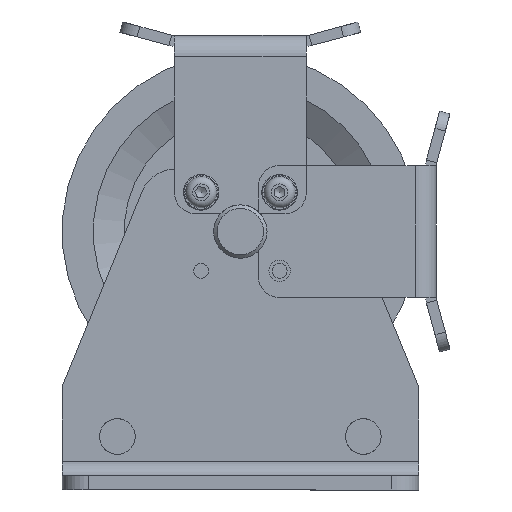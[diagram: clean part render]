
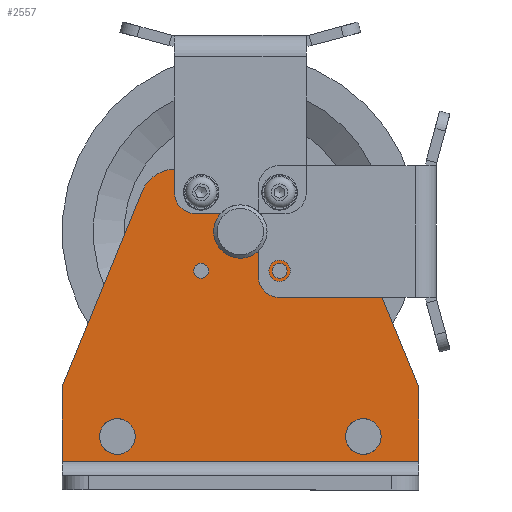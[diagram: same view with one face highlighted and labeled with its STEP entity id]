
A CAD part, front view. The second image highlights one B-rep face of the part: STEP entity #2557.
In plain terms, the highlighted planar face has unit normal (0, -1, 0) as drawn and (0, 0, 1) by its records, which use the part's own axes.
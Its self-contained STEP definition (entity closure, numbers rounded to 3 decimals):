
#167=FACE_BOUND('',#464,.T.);
#168=FACE_BOUND('',#465,.T.);
#169=FACE_BOUND('',#466,.T.);
#170=FACE_BOUND('',#467,.T.);
#171=FACE_BOUND('',#468,.T.);
#172=FACE_BOUND('',#469,.T.);
#173=FACE_BOUND('',#470,.T.);
#207=PLANE('',#2944);
#303=FACE_OUTER_BOUND('',#463,.T.);
#463=EDGE_LOOP('',(#1892,#1893,#1894,#1895,#1896,#1897,#1898,#1899));
#464=EDGE_LOOP('',(#1900,#1901));
#465=EDGE_LOOP('',(#1902,#1903));
#466=EDGE_LOOP('',(#1904,#1905));
#467=EDGE_LOOP('',(#1906,#1907));
#468=EDGE_LOOP('',(#1908));
#469=EDGE_LOOP('',(#1909));
#470=EDGE_LOOP('',(#1910));
#634=LINE('',#4224,#819);
#637=LINE('',#4230,#822);
#645=LINE('',#4264,#830);
#649=LINE('',#4273,#834);
#652=LINE('',#4280,#837);
#653=LINE('',#4282,#838);
#819=VECTOR('',#3345,10.);
#822=VECTOR('',#3350,10.);
#830=VECTOR('',#3384,10.);
#834=VECTOR('',#3394,10.);
#837=VECTOR('',#3403,10.);
#838=VECTOR('',#3406,10.);
#981=CIRCLE('',#2881,4.188);
#982=CIRCLE('',#2882,4.188);
#984=CIRCLE('',#2885,4.188);
#985=CIRCLE('',#2886,4.188);
#987=CIRCLE('',#2889,4.188);
#988=CIRCLE('',#2890,4.188);
#990=CIRCLE('',#2893,4.188);
#991=CIRCLE('',#2894,4.188);
#1012=CIRCLE('',#2931,10.);
#1013=CIRCLE('',#2933,10.);
#1014=CIRCLE('',#2935,15.);
#1015=CIRCLE('',#2938,20.);
#1016=CIRCLE('',#2941,20.);
#1152=VERTEX_POINT('',#4125);
#1153=VERTEX_POINT('',#4126);
#1155=VERTEX_POINT('',#4133);
#1156=VERTEX_POINT('',#4134);
#1158=VERTEX_POINT('',#4141);
#1159=VERTEX_POINT('',#4142);
#1161=VERTEX_POINT('',#4149);
#1162=VERTEX_POINT('',#4150);
#1184=VERTEX_POINT('',#4215);
#1185=VERTEX_POINT('',#4219);
#1187=VERTEX_POINT('',#4228);
#1196=VERTEX_POINT('',#4250);
#1197=VERTEX_POINT('',#4254);
#1198=VERTEX_POINT('',#4258);
#1199=VERTEX_POINT('',#4262);
#1200=VERTEX_POINT('',#4263);
#1201=VERTEX_POINT('',#4268);
#1202=VERTEX_POINT('',#4272);
#1203=VERTEX_POINT('',#4276);
#1390=EDGE_CURVE('',#1152,#1153,#981,.T.);
#1391=EDGE_CURVE('',#1153,#1152,#982,.T.);
#1394=EDGE_CURVE('',#1155,#1156,#984,.T.);
#1395=EDGE_CURVE('',#1156,#1155,#985,.T.);
#1398=EDGE_CURVE('',#1158,#1159,#987,.T.);
#1399=EDGE_CURVE('',#1159,#1158,#988,.T.);
#1402=EDGE_CURVE('',#1161,#1162,#990,.T.);
#1403=EDGE_CURVE('',#1162,#1161,#991,.T.);
#1439=EDGE_CURVE('',#1184,#1185,#634,.T.);
#1442=EDGE_CURVE('',#1187,#1185,#637,.T.);
#1453=EDGE_CURVE('',#1196,#1196,#1012,.T.);
#1455=EDGE_CURVE('',#1197,#1197,#1013,.T.);
#1457=EDGE_CURVE('',#1198,#1198,#1014,.T.);
#1458=EDGE_CURVE('',#1199,#1200,#645,.T.);
#1461=EDGE_CURVE('',#1200,#1201,#1015,.T.);
#1463=EDGE_CURVE('',#1201,#1202,#649,.T.);
#1465=EDGE_CURVE('',#1202,#1203,#1016,.T.);
#1467=EDGE_CURVE('',#1203,#1187,#652,.T.);
#1468=EDGE_CURVE('',#1184,#1199,#653,.T.);
#1892=ORIENTED_EDGE('',*,*,#1439,.T.);
#1893=ORIENTED_EDGE('',*,*,#1442,.F.);
#1894=ORIENTED_EDGE('',*,*,#1467,.F.);
#1895=ORIENTED_EDGE('',*,*,#1465,.F.);
#1896=ORIENTED_EDGE('',*,*,#1463,.F.);
#1897=ORIENTED_EDGE('',*,*,#1461,.F.);
#1898=ORIENTED_EDGE('',*,*,#1458,.F.);
#1899=ORIENTED_EDGE('',*,*,#1468,.F.);
#1900=ORIENTED_EDGE('',*,*,#1390,.T.);
#1901=ORIENTED_EDGE('',*,*,#1391,.T.);
#1902=ORIENTED_EDGE('',*,*,#1394,.T.);
#1903=ORIENTED_EDGE('',*,*,#1395,.T.);
#1904=ORIENTED_EDGE('',*,*,#1398,.T.);
#1905=ORIENTED_EDGE('',*,*,#1399,.T.);
#1906=ORIENTED_EDGE('',*,*,#1402,.T.);
#1907=ORIENTED_EDGE('',*,*,#1403,.T.);
#1908=ORIENTED_EDGE('',*,*,#1453,.T.);
#1909=ORIENTED_EDGE('',*,*,#1455,.T.);
#1910=ORIENTED_EDGE('',*,*,#1457,.T.);
#2557=ADVANCED_FACE('',(#303,#167,#168,#169,#170,#171,#172,#173),#207,.T.);
#2881=AXIS2_PLACEMENT_3D('',#4127,#3238,#3239);
#2882=AXIS2_PLACEMENT_3D('',#4128,#3240,#3241);
#2885=AXIS2_PLACEMENT_3D('',#4135,#3247,#3248);
#2886=AXIS2_PLACEMENT_3D('',#4136,#3249,#3250);
#2889=AXIS2_PLACEMENT_3D('',#4143,#3256,#3257);
#2890=AXIS2_PLACEMENT_3D('',#4144,#3258,#3259);
#2893=AXIS2_PLACEMENT_3D('',#4151,#3265,#3266);
#2894=AXIS2_PLACEMENT_3D('',#4152,#3267,#3268);
#2931=AXIS2_PLACEMENT_3D('',#4252,#3370,#3371);
#2933=AXIS2_PLACEMENT_3D('',#4256,#3375,#3376);
#2935=AXIS2_PLACEMENT_3D('',#4260,#3380,#3381);
#2938=AXIS2_PLACEMENT_3D('',#4269,#3389,#3390);
#2941=AXIS2_PLACEMENT_3D('',#4277,#3398,#3399);
#2944=AXIS2_PLACEMENT_3D('',#4283,#3407,#3408);
#3238=DIRECTION('center_axis',(0.,0.,-1.));
#3239=DIRECTION('ref_axis',(1.,0.,0.));
#3240=DIRECTION('center_axis',(0.,0.,-1.));
#3241=DIRECTION('ref_axis',(1.,0.,0.));
#3247=DIRECTION('center_axis',(0.,0.,-1.));
#3248=DIRECTION('ref_axis',(1.,0.,0.));
#3249=DIRECTION('center_axis',(0.,0.,-1.));
#3250=DIRECTION('ref_axis',(1.,0.,0.));
#3256=DIRECTION('center_axis',(0.,0.,-1.));
#3257=DIRECTION('ref_axis',(1.,0.,0.));
#3258=DIRECTION('center_axis',(0.,0.,-1.));
#3259=DIRECTION('ref_axis',(1.,0.,0.));
#3265=DIRECTION('center_axis',(0.,0.,-1.));
#3266=DIRECTION('ref_axis',(1.,0.,0.));
#3267=DIRECTION('center_axis',(0.,0.,-1.));
#3268=DIRECTION('ref_axis',(1.,0.,0.));
#3345=DIRECTION('',(1.,0.,0.));
#3350=DIRECTION('',(0.,-1.,0.));
#3370=DIRECTION('center_axis',(0.,0.,-1.));
#3371=DIRECTION('ref_axis',(-1.,0.,0.));
#3375=DIRECTION('center_axis',(0.,0.,-1.));
#3376=DIRECTION('ref_axis',(-1.,0.,0.));
#3380=DIRECTION('center_axis',(0.,0.,-1.));
#3381=DIRECTION('ref_axis',(-1.,0.,0.));
#3384=DIRECTION('',(0.379,0.925,0.));
#3389=DIRECTION('center_axis',(0.,0.,-1.));
#3390=DIRECTION('ref_axis',(0.,1.,0.));
#3394=DIRECTION('',(1.,0.,0.));
#3398=DIRECTION('center_axis',(0.,0.,-1.));
#3399=DIRECTION('ref_axis',(0.925,0.379,0.));
#3403=DIRECTION('',(0.379,-0.925,0.));
#3406=DIRECTION('',(0.,1.,0.));
#3407=DIRECTION('center_axis',(0.,0.,1.));
#3408=DIRECTION('ref_axis',(1.,0.,0.));
#4125=CARTESIAN_POINT('',(-17.812,123.,8.));
#4126=CARTESIAN_POINT('',(-26.188,123.,8.));
#4127=CARTESIAN_POINT('Origin',(-22.,123.,8.));
#4128=CARTESIAN_POINT('Origin',(-22.,123.,8.));
#4133=CARTESIAN_POINT('',(26.188,123.,8.));
#4134=CARTESIAN_POINT('',(17.812,123.,8.));
#4135=CARTESIAN_POINT('Origin',(22.,123.,8.));
#4136=CARTESIAN_POINT('Origin',(22.,123.,8.));
#4141=CARTESIAN_POINT('',(-17.812,167.,8.));
#4142=CARTESIAN_POINT('',(-26.188,167.,8.));
#4143=CARTESIAN_POINT('Origin',(-22.,167.,8.));
#4144=CARTESIAN_POINT('Origin',(-22.,167.,8.));
#4149=CARTESIAN_POINT('',(26.188,167.,8.));
#4150=CARTESIAN_POINT('',(17.812,167.,8.));
#4151=CARTESIAN_POINT('Origin',(22.,167.,8.));
#4152=CARTESIAN_POINT('Origin',(22.,167.,8.));
#4215=CARTESIAN_POINT('',(-100.,16.,8.));
#4219=CARTESIAN_POINT('',(100.,16.,8.));
#4224=CARTESIAN_POINT('',(50.,16.,8.));
#4228=CARTESIAN_POINT('',(100.,58.,8.));
#4230=CARTESIAN_POINT('',(100.,0.,8.));
#4250=CARTESIAN_POINT('',(79.,30.,8.));
#4252=CARTESIAN_POINT('Origin',(69.,30.,8.));
#4254=CARTESIAN_POINT('',(-59.,30.,8.));
#4256=CARTESIAN_POINT('Origin',(-69.,30.,8.));
#4258=CARTESIAN_POINT('',(15.,145.,8.));
#4260=CARTESIAN_POINT('Origin',(0.,145.,8.));
#4262=CARTESIAN_POINT('',(-100.,58.,8.));
#4263=CARTESIAN_POINT('',(-55.088,167.584,8.));
#4264=CARTESIAN_POINT('',(-55.088,167.584,8.));
#4268=CARTESIAN_POINT('',(-36.582,180.,8.));
#4269=CARTESIAN_POINT('Origin',(-36.582,160.,8.));
#4272=CARTESIAN_POINT('',(36.582,180.,8.));
#4273=CARTESIAN_POINT('',(36.582,180.,8.));
#4276=CARTESIAN_POINT('',(55.088,167.584,8.));
#4277=CARTESIAN_POINT('Origin',(36.582,160.,8.));
#4280=CARTESIAN_POINT('',(100.,58.,8.));
#4282=CARTESIAN_POINT('',(-100.,58.,8.));
#4283=CARTESIAN_POINT('Origin',(0.,76.556,8.));
